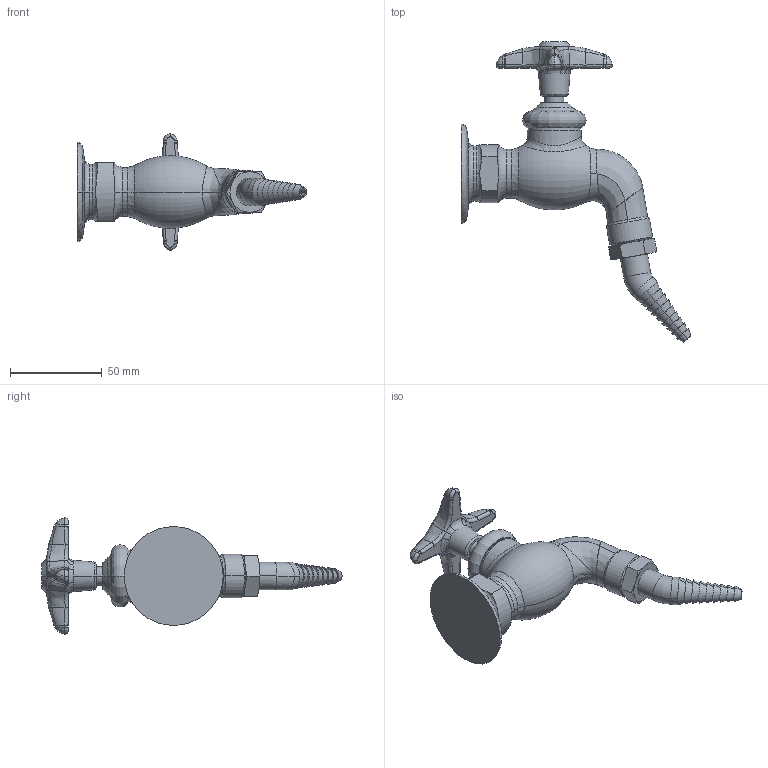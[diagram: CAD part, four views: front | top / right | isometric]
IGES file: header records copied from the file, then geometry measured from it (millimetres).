
Start section:  PTC IGES file: LWV3-B24.igs
Global section: file name: LWV3-B24.igs; native system: Creo Parametric by PTC Inc.; preprocessor: 2014500; author: usch_engrender; organization: Unknown; date: 20150910.121504; units: inch
Bounding box: 125.3 x 163.86 x 63.42 mm (x, y, z)
Volume: 117604.6 mm3; surface area: 30980.6 mm2
Topology: 1 solids, 5 shells, 376 faces, 847 edges, 500 vertices
Faces by surface type: bspline 217, revolution 159
